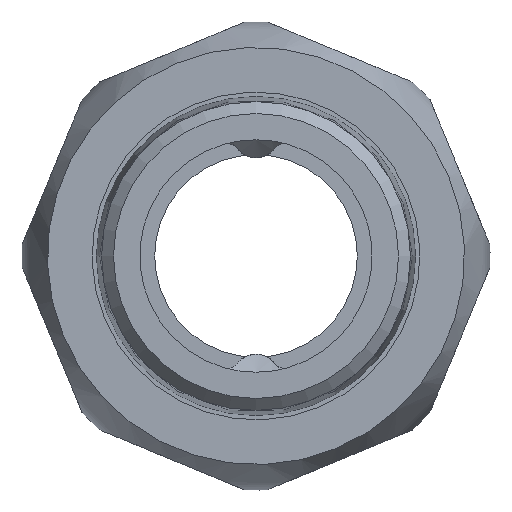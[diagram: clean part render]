
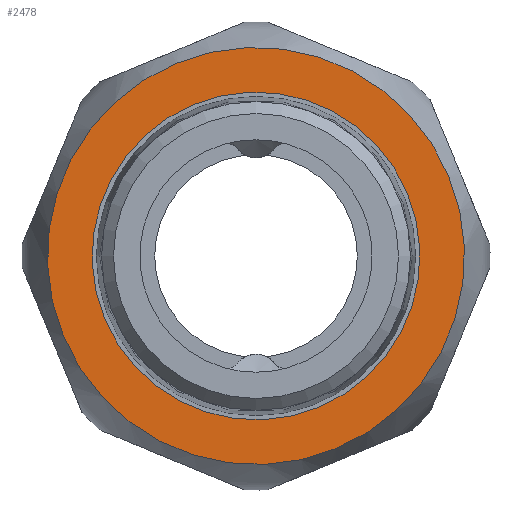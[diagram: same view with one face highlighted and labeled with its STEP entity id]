
A CAD part, left-side view. The second image highlights one B-rep face of the part: STEP entity #2478.
In plain terms, the highlighted planar face has unit normal (-1, 0, 0).
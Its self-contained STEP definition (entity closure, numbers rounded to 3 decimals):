
#2415=CARTESIAN_POINT('',(0.0,17.5,0.0));
#2416=VERTEX_POINT('',#2415);
#2417=CARTESIAN_POINT('',(0.0,0.0,0.0));
#2418=DIRECTION('',(1.0,0.0,0.0));
#2419=DIRECTION('',(0.0,1.0,0.0));
#2420=AXIS2_PLACEMENT_3D('',#2417,#2418,#2419);
#2421=CIRCLE('',#2420,17.5);
#2422=EDGE_CURVE('',#2416,#2416,#2421,.T.);
#2452=CARTESIAN_POINT('',(0.0,13.75,0.0));
#2453=VERTEX_POINT('',#2452);
#2454=CARTESIAN_POINT('',(0.0,0.0,0.0));
#2455=DIRECTION('',(1.0,0.0,0.0));
#2456=DIRECTION('',(0.0,1.0,0.0));
#2457=AXIS2_PLACEMENT_3D('',#2454,#2455,#2456);
#2458=CIRCLE('',#2457,13.75);
#2459=EDGE_CURVE('',#2453,#2453,#2458,.T.);
#2467=CARTESIAN_POINT('',(0.0,15.625,0.0));
#2468=DIRECTION('',(-1.0,0.0,0.0));
#2469=DIRECTION('',(0.0,0.0,1.0));
#2470=AXIS2_PLACEMENT_3D('',#2467,#2468,#2469);
#2471=PLANE('',#2470);
#2472=ORIENTED_EDGE('',*,*,#2422,.F.);
#2473=EDGE_LOOP('',(#2472));
#2474=FACE_OUTER_BOUND('',#2473,.T.);
#2475=ORIENTED_EDGE('',*,*,#2459,.T.);
#2476=EDGE_LOOP('',(#2475));
#2477=FACE_BOUND('',#2476,.T.);
#2478=ADVANCED_FACE('',(#2474,#2477),#2471,.T.);
